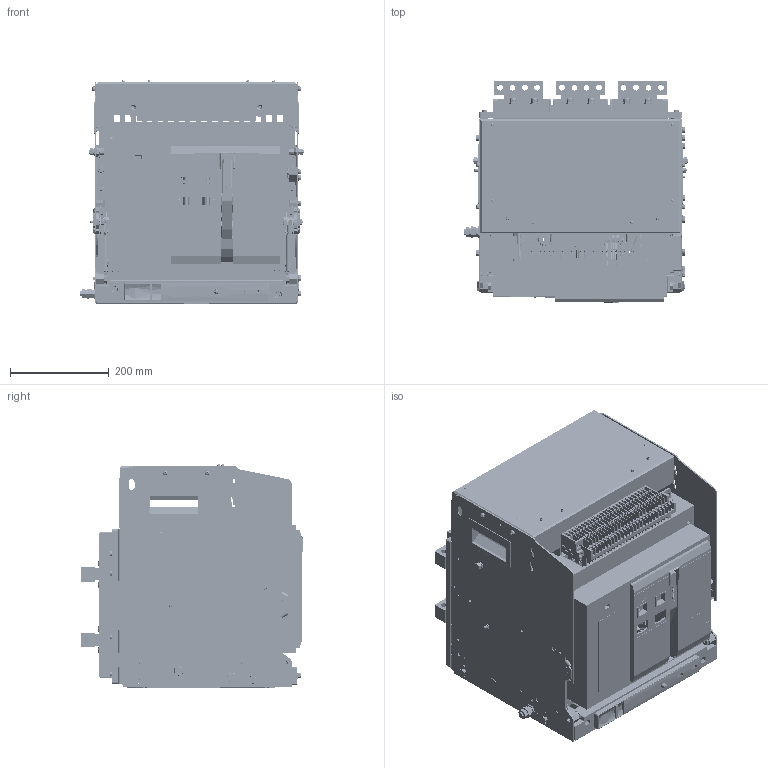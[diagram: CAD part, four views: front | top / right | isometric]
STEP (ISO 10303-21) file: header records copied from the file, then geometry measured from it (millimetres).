
FILE_DESCRIPTION((''),'2;1');
FILE_NAME('2TZD_257_6012_ASM_ASM','2026-06-02T18:25:30',('chenjun'),(''),'CREO PARAMETRIC BY PTC INC, 2020354','CREO PARAMETRIC BY PTC INC, 2020354','');
FILE_SCHEMA(('CONFIG_CONTROL_DESIGN'));
Products named in the file (31): 8TZD_020_1016_1; GB_T809-M6X12-A_1; 5TZD_020_1043_ASM_1_ASM; 8TZD_001_1005_1; 8TZD_311_1031_1; 5TZD_260_1003_AF0_ASM_1_ASM; 8TZD_580_1088_1; 5TZD_260_1003_AF1_ASM_1_ASM; GB_T819_1-M6X16_1; 8TZD_580_1083_AF0_1; 8TZD_580_1082_AF0_1; 8TZD_580_1082_AF1_1; 8TZD_580_1083_AF1_1; 8TZD_580_1082_AF2_1; 8TZD_580_1082_AF3_1; GB_T97_1_8_1; GB_T93-8_1; GB_T70_1-M8X25_1; 5TZD_020_1044_AF0_ASM_1_ASM; GB_T97_1_6_1; GB_T93-6_1; GB_T70_1-M6X20_1; 6TZD_229_6011_AF0_ASM_1_ASM; 5TZD_558_1012_1; ASM0002_ASM_1; 111111111_1; 2TZD_257_6012_ASM_1_ASM; CTZ; MZ; FHZ; 2TZD_257_6012_ASM_ASM
Assembly tree (173 placements, depth 6):
  2TZD_257_6012_ASM_ASM
    2TZD_257_6012_ASM_1_ASM
      6TZD_229_6011_AF0_ASM_1_ASM
        5TZD_020_1044_AF0_ASM_1_ASM
          5TZD_020_1043_ASM_1_ASM
            8TZD_020_1016_1
            GB_T809-M6X12-A_1  x24
          5TZD_260_1003_AF0_ASM_1_ASM
            8TZD_001_1005_1
            8TZD_311_1031_1
          8TZD_580_1088_1  x6
          5TZD_260_1003_AF1_ASM_1_ASM
            8TZD_001_1005_1
            8TZD_311_1031_1
          GB_T819_1-M6X16_1  x24
          8TZD_580_1083_AF0_1
          8TZD_580_1082_AF0_1
          8TZD_580_1082_AF1_1
          8TZD_580_1083_AF1_1
          8TZD_580_1082_AF2_1
          8TZD_580_1082_AF3_1
          GB_T97_1_8_1  x24
          GB_T93-8_1  x24
          GB_T70_1-M8X25_1  x24
        GB_T97_1_6_1  x8
        GB_T93-6_1  x8
        GB_T70_1-M6X20_1  x8
      5TZD_558_1012_1
      ASM0002_ASM_1
      111111111_1
    CTZ
    MZ
    FHZ
Bounding box: 452.15 x 451 x 452 mm (x, y, z)
Topology: 168 solids, 390 shells, 18519 faces, 50324 edges, 32425 vertices
Faces by surface type: plane 10419, cylinder 5556, cone 1326, bspline 572, torus 527, sphere 89, extrusion 22, revolution 8
Entity records: 567174 total; most frequent: CARTESIAN_POINT 171424, ORIENTED_EDGE 84294, DIRECTION 80129, EDGE_CURVE 42304, VECTOR 27835, LINE 27813, VERTEX_POINT 27342, AXIS2_PLACEMENT_3D 26143
